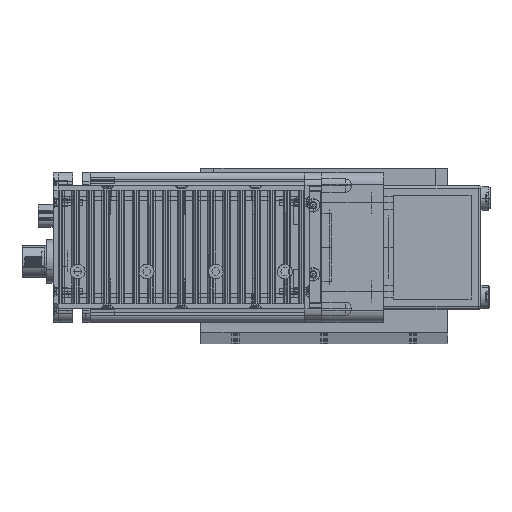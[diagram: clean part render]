
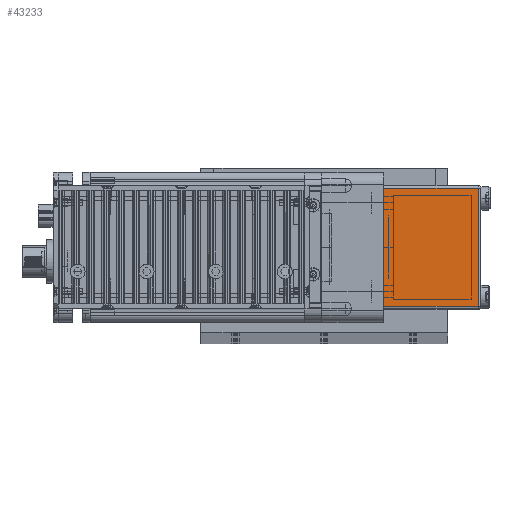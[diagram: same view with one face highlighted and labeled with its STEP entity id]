
A CAD part, top view. The second image highlights one B-rep face of the part: STEP entity #43233.
In plain terms, the highlighted planar face has unit normal (0, 0, 1) as drawn and (1, 0, 0) by its records, which use the part's own axes.
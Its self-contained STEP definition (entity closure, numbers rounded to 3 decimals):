
#1091 = VERTEX_POINT ( 'NONE', #30954 ) ;
#1225 = EDGE_CURVE ( 'NONE', #50032, #49536, #31252, .T. ) ;
#4775 = EDGE_CURVE ( 'NONE', #46877, #1091, #32272, .T. ) ;
#8569 = DIRECTION ( 'NONE',  ( 0., 1., 0. ) ) ;
#8570 = VECTOR ( 'NONE', #8569, 1000. ) ;
#8571 = CARTESIAN_POINT ( 'NONE',  ( 62., -25., 38.5 ) ) ;
#8574 = LINE ( 'NONE', #8571, #8570 ) ;
#8752 = DIRECTION ( 'NONE',  ( 0., 1., 0. ) ) ;
#8753 = VECTOR ( 'NONE', #8752, 1000. ) ;
#8754 = CARTESIAN_POINT ( 'NONE',  ( 62., -25., 0. ) ) ;
#8755 = LINE ( 'NONE', #8754, #8753 ) ;
#8986 = AXIS2_PLACEMENT_3D ( 'NONE', #9031, #9030, #9029 ) ;
#8989 = PLANE ( 'NONE',  #8986 ) ;
#9006 = FACE_OUTER_BOUND ( 'NONE', #43899, .T. ) ;
#9029 = DIRECTION ( 'NONE',  ( 0., -1., 0. ) ) ;
#9030 = DIRECTION ( 'NONE',  ( -1., 0., 0. ) ) ;
#9031 = CARTESIAN_POINT ( 'NONE',  ( 62., 25., 39.5 ) ) ;
#15641 = CARTESIAN_POINT ( 'NONE',  ( 62., -24., 0. ) ) ;
#20037 = CARTESIAN_POINT ( 'NONE',  ( 62., 24., 0. ) ) ;
#21250 = CARTESIAN_POINT ( 'NONE',  ( 62., 24., 38.5 ) ) ;
#30954 = CARTESIAN_POINT ( 'NONE',  ( 62., -24., 38.5 ) ) ;
#31249 = DIRECTION ( 'NONE',  ( 0., 0., -1. ) ) ;
#31250 = VECTOR ( 'NONE', #31249, 1000. ) ;
#31251 = CARTESIAN_POINT ( 'NONE',  ( 62., 24., 39.5 ) ) ;
#31252 = LINE ( 'NONE', #31251, #31250 ) ;
#32263 = DIRECTION ( 'NONE',  ( 0., 0., 1. ) ) ;
#32264 = VECTOR ( 'NONE', #32263, 1000. ) ;
#32265 = CARTESIAN_POINT ( 'NONE',  ( 62., -24., 39.5 ) ) ;
#32272 = LINE ( 'NONE', #32265, #32264 ) ;
#42594 = ORIENTED_EDGE ( 'NONE', *, *, #1225, .F. ) ;
#42779 = ORIENTED_EDGE ( 'NONE', *, *, #43069, .T. ) ;
#42979 = EDGE_CURVE ( 'NONE', #1091, #50032, #8574, .T. ) ;
#43069 = EDGE_CURVE ( 'NONE', #46877, #49536, #8755, .T. ) ;
#43233 = ADVANCED_FACE ( 'NONE', ( #9006 ), #8989, .F. ) ;
#43899 = EDGE_LOOP ( 'NONE', ( #43912, #42779, #42594, #44584 ) ) ;
#43912 = ORIENTED_EDGE ( 'NONE', *, *, #4775, .F. ) ;
#44584 = ORIENTED_EDGE ( 'NONE', *, *, #42979, .F. ) ;
#46877 = VERTEX_POINT ( 'NONE', #15641 ) ;
#49536 = VERTEX_POINT ( 'NONE', #20037 ) ;
#50032 = VERTEX_POINT ( 'NONE', #21250 ) ;
